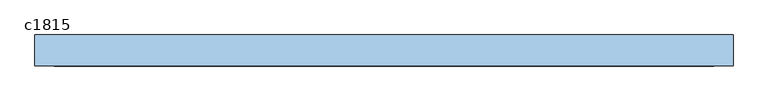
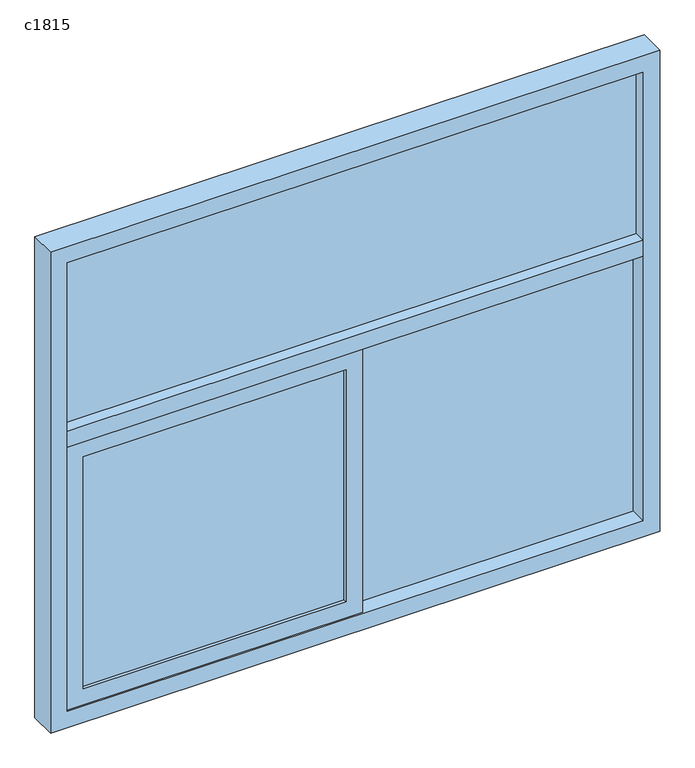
"""IFC4 building model written with IfcOpenShell, lengths in millimetres: window geometry, 组合窗 - 双层单列(固定+推拉) : c1815."""

from ifc_helpers import new_model, si_unit, frame, origin, place, context, project, spatial, polyline, outline, extrude, source, transform, mapped, element, save


def c1815_059886ae(model_context):
    return source(origin(), model_context, "Body", "SweptSolid", [
        extrude(outline(polyline([(850.0, -10.0), (-850.0, -10.0), (-850.0, 0.0), (850.0, 0.0), (850.0, -10.0)])), frame((0.0, 0.0, 1825.0), z_axis=(0.0, 0.0, 1.0), x_axis=(1.0, 0.0, 0.0)), (0.0, 0.0, 1.0), 525.0),
        extrude(outline(polyline([(-800.0, -20.0), (-25.0, -20.0), (-25.0, -30.0), (-800.0, -30.0), (-800.0, -20.0)])), frame((0.0, 0.0, 1000.0), z_axis=(0.0, 0.0, 1.0), x_axis=(1.0, 0.0, 0.0)), (0.0, 0.0, 1.0), 725.0),
        extrude(outline(polyline([(25.0, 15.0), (850.0, 15.0), (850.0, 5.0), (25.0, 5.0), (25.0, 15.0)])), frame((0.0, 0.0, 950.0), z_axis=(0.0, 0.0, 1.0), x_axis=(1.0, 0.0, 0.0)), (0.0, 0.0, 1.0), 825.0),
        extrude(outline(polyline([(25.0, 25.0), (25.0, -5.0), (-25.0, -5.0), (-25.0, 25.0), (25.0, 25.0)])), frame((0.0, 0.0, 950.0), z_axis=(0.0, 0.0, 1.0), x_axis=(1.0, 0.0, 0.0)), (0.0, 0.0, 1.0), 825.0),
        extrude(outline(polyline([(1775.0, 25.0), (1775.0, -850.0), (950.0, -850.0), (950.0, 25.0), (1775.0, 25.0)]), holes=[polyline([(1000.0, -25.0), (1000.0, -800.0), (1725.0, -800.0), (1725.0, -25.0), (1000.0, -25.0)])]), frame((0.0, -40.0, 0.0), z_axis=(0.0, 1.0, 0.0), x_axis=(0.0, 0.0, 1.0)), (0.0, 0.0, 1.0), 30.0),
        extrude(outline(polyline([(-850.0, 35.0), (850.0, 35.0), (850.0, -45.0), (-850.0, -45.0), (-850.0, 35.0)])), frame((0.0, 0.0, 1775.0), z_axis=(0.0, 0.0, 1.0), x_axis=(1.0, 0.0, 0.0)), (0.0, 0.0, 1.0), 50.0),
        extrude(outline(polyline([(2400.0, -900.0), (900.0, -900.0), (900.0, 900.0), (2400.0, 900.0), (2400.0, -900.0)]), holes=[polyline([(2350.0, 850.0), (950.0, 850.0), (950.0, -850.0), (2350.0, -850.0), (2350.0, 850.0)])]), frame((0.0, -45.0, 0.0), z_axis=(0.0, 1.0, 0.0), x_axis=(0.0, 0.0, 1.0)), (0.0, 0.0, 1.0), 80.0),
    ])


if __name__ == "__main__":
    model = new_model("IFC4")
    model_context = context("Model", 3, world=origin())
    ifc_project = project(units=[si_unit("LENGTHUNIT", "METRE", prefix="MILLI")], contexts=[model_context])
    site = spatial("IfcSite", under=ifc_project)
    building = spatial("IfcBuilding", under=site)
    placement = place(None, origin())
    c1815_shape = c1815_059886ae(model_context)
    element("IfcWindow", 1, ObjectType="组合窗 - 双层单列(固定+推拉) : c1815", at=placement, inside=building, context=model_context, shape_type="MappedRepresentation", body=[
        mapped(c1815_shape, transform((0.0, 0.0, 0.0), x_axis=(1.0, 0.0, 0.0), y_axis=(0.0, 1.0, 0.0), z_axis=(0.0, 0.0, 1.0))),
    ])
    save(model, "model.ifc")
